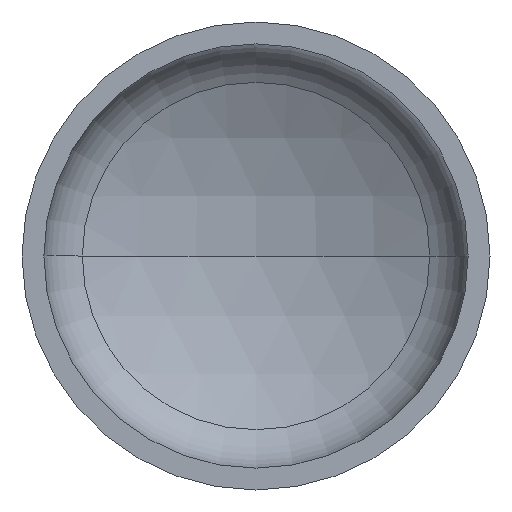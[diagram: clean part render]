
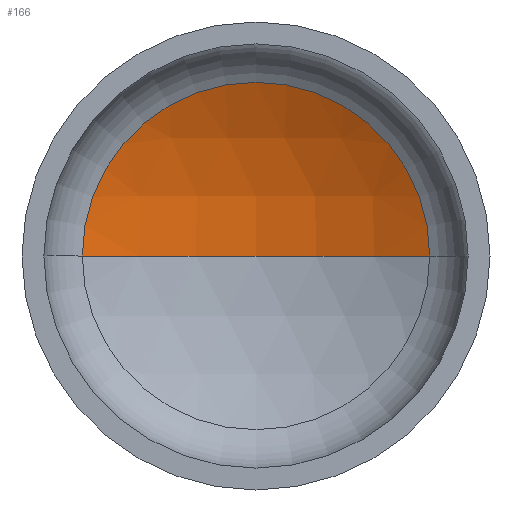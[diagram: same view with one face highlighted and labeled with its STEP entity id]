
A CAD part, front view. The second image highlights one B-rep face of the part: STEP entity #166.
In plain terms, the highlighted spherical face has radius 480 mm.
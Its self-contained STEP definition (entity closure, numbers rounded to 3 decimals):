
#21 = VERTEX_POINT ( 'NONE', #354 ) ;
#31 = ORIENTED_EDGE ( 'NONE', *, *, #380, .T. ) ;
#44 = VERTEX_POINT ( 'NONE', #233 ) ;
#48 = VERTEX_POINT ( 'NONE', #208 ) ;
#58 = ORIENTED_EDGE ( 'NONE', *, *, #349, .T. ) ;
#104 = CARTESIAN_POINT ( 'NONE',  ( 0., -258.721, 0. ) ) ;
#131 = DIRECTION ( 'NONE',  ( 1., 0., 0. ) ) ;
#137 = DIRECTION ( 'NONE',  ( -1., 0., 0. ) ) ;
#146 = DIRECTION ( 'NONE',  ( -1., 0., 0. ) ) ;
#166 = ADVANCED_FACE ( 'NONE', ( #264 ), #193, .F. ) ;
#170 = CARTESIAN_POINT ( 'NONE',  ( 0., -258.721, 0. ) ) ;
#188 = CARTESIAN_POINT ( 'NONE',  ( 0., -258.721, 0. ) ) ;
#193 = SPHERICAL_SURFACE ( 'NONE', #360, 480. ) ;
#208 = CARTESIAN_POINT ( 'NONE',  ( 0., 221.279, 0. ) ) ;
#217 = CIRCLE ( 'NONE', #253, 222.68 ) ;
#233 = CARTESIAN_POINT ( 'NONE',  ( 222.68, 166.501, 0. ) ) ;
#237 = DIRECTION ( 'NONE',  ( 0., -1., 0. ) ) ;
#253 = AXIS2_PLACEMENT_3D ( 'NONE', #362, #237, #298 ) ;
#264 = FACE_OUTER_BOUND ( 'NONE', #386, .T. ) ;
#278 = DIRECTION ( 'NONE',  ( 0., 0., -1. ) ) ;
#295 = AXIS2_PLACEMENT_3D ( 'NONE', #104, #313, #137 ) ;
#298 = DIRECTION ( 'NONE',  ( 1., 0., 0. ) ) ;
#313 = DIRECTION ( 'NONE',  ( 0., 0., -1. ) ) ;
#337 = AXIS2_PLACEMENT_3D ( 'NONE', #188, #385, #131 ) ;
#349 = EDGE_CURVE ( 'NONE', #44, #21, #217, .T. ) ;
#354 = CARTESIAN_POINT ( 'NONE',  ( -222.68, 166.501, 0. ) ) ;
#358 = CIRCLE ( 'NONE', #295, 480. ) ;
#360 = AXIS2_PLACEMENT_3D ( 'NONE', #170, #278, #146 ) ;
#362 = CARTESIAN_POINT ( 'NONE',  ( 0., 166.501, 0. ) ) ;
#373 = ORIENTED_EDGE ( 'NONE', *, *, #395, .F. ) ;
#380 = EDGE_CURVE ( 'NONE', #48, #44, #358, .T. ) ;
#385 = DIRECTION ( 'NONE',  ( 0., 0., 1. ) ) ;
#386 = EDGE_LOOP ( 'NONE', ( #373, #31, #58 ) ) ;
#395 = EDGE_CURVE ( 'NONE', #48, #21, #411, .T. ) ;
#411 = CIRCLE ( 'NONE', #337, 480. ) ;
